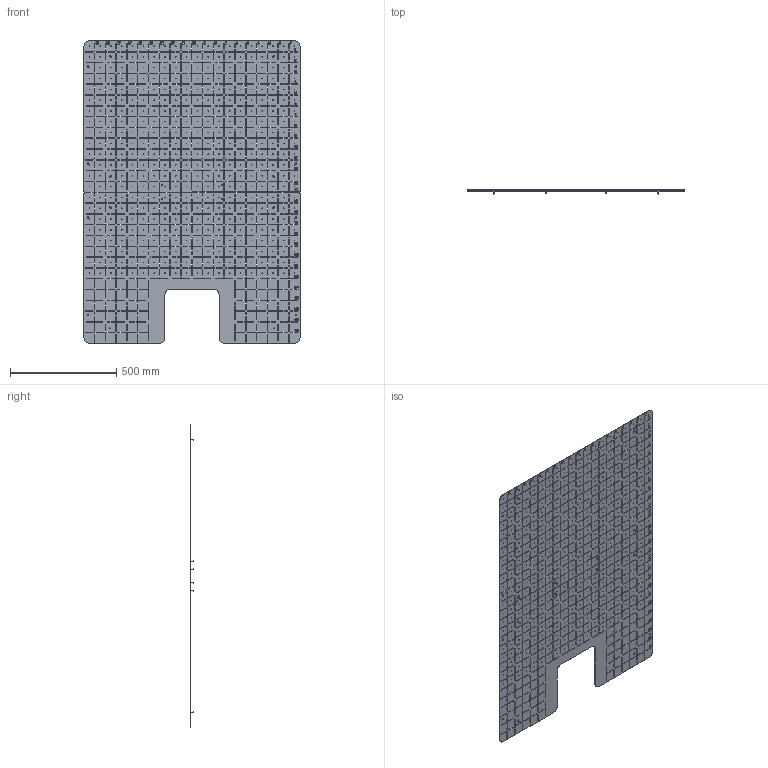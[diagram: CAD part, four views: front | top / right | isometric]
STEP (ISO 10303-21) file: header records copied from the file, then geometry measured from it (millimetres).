
FILE_DESCRIPTION (( 'STEP AP203' ), '1' );
FILE_NAME ('50120264 - VERSACART 1300 OVERSIZED STAINLESS STEEL VISUAL INFEED.STEP', '2024-12-11T18:01:57', ( '' ), ( '' ), 'SwSTEP 2.0', 'SolidWorks 2019', '' );
FILE_SCHEMA (( 'CONFIG_CONTROL_DESIGN' ));
Length unit declared in the file: inch
Products named in the file (6): M4x0.7 FHCS_FHCS M4x0.7x16; 50120264 - VERSACART 1300 OVERSIZED STAINLESS STEEL VISUAL INFEED; 5012087_Default Configuration; 5010094_Default Configuration; 5010264_Default Configuration; 5010093_Default Configuration
Assembly tree (15 placements, depth 3):
  50120264 - VERSACART 1300 OVERSIZED STAINLESS STEEL VISUAL INFEED
    5010264_Default Configuration
      5010093_Default Configuration
      5010094_Default Configuration
      M4x0.7 FHCS_FHCS M4x0.7x16  x12
  5012087_Default Configuration
Bounding box: 1016 x 16.7 x 1422.4 mm (x, y, z)
Volume: 3878817 mm3; surface area: 2828491.4 mm2
Topology: 14 solids, 14 shells, 6378 faces, 18918 edges, 12568 vertices
Faces by surface type: plane 3983, cylinder 2299, cone 96
Entity records: 212229 total; most frequent: CARTESIAN_POINT 36935, ORIENTED_EDGE 36908, DIRECTION 35368, EDGE_CURVE 18454, VECTOR 13916, LINE 13916, VERTEX_POINT 12293, AXIS2_PLACEMENT_3D 10726
